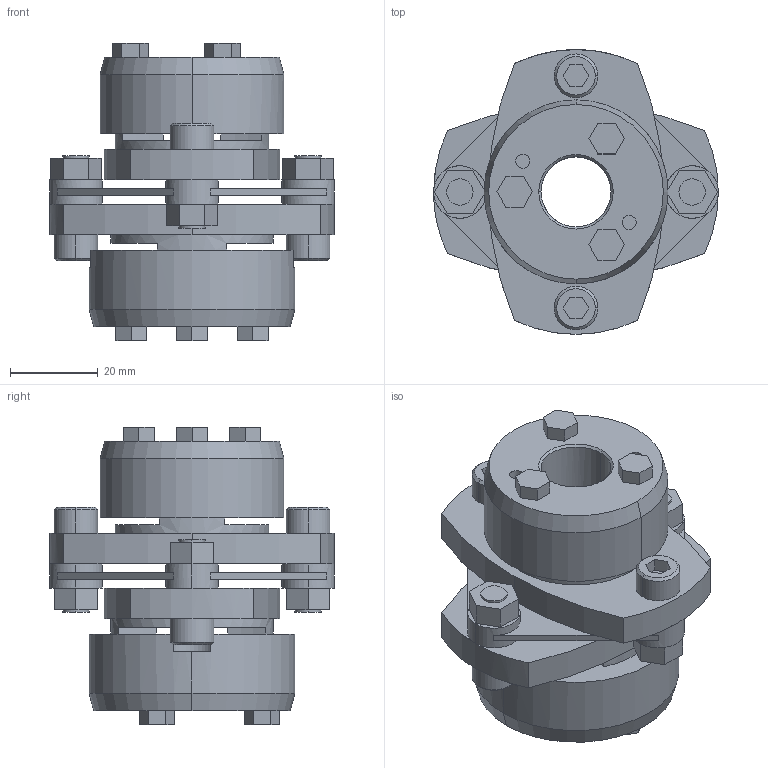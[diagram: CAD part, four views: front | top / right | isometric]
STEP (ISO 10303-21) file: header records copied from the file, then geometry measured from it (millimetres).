
FILE_DESCRIPTION((''),'2;1');
FILE_NAME('LCS-65T7-16×19.stp','2011-08-23T13:14:58',(''),(''),'AutoCAD STEP 2000i','AutoCAD 2000i',', , ');
FILE_SCHEMA(('CONFIG_CONTROL_DESIGN'));
Length unit declared in the file: millimetre
Products named in the file (7): LCS-65T7-15×19; 忣兜1; LC65T7-T019; LC65T7-T017; LC65T7-T015-1; LC65T7-T015; LCS65-ITA
Assembly tree (6 placements, depth 2):
  LCS-65T7-15×19
    忣兜1
    LC65T7-T019
    LC65T7-T017
    LC65T7-T015-1
    LC65T7-T015
    LCS65-ITA
Bounding box: 65 x 65 x 67.9 mm (x, y, z)
Volume: 85820.4 mm3; surface area: 29161.7 mm2
Topology: 1 solids, 1 shells, 224 faces, 575 edges, 375 vertices
Faces by surface type: plane 134, cylinder 70, cone 20
Entity records: 7037 total; most frequent: DIRECTION 1240, CARTESIAN_POINT 1181, ORIENTED_EDGE 1150, EDGE_CURVE 575, AXIS2_PLACEMENT_3D 434, VERTEX_POINT 375, VECTOR 372, LINE 372
